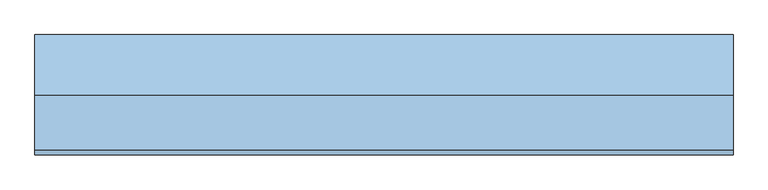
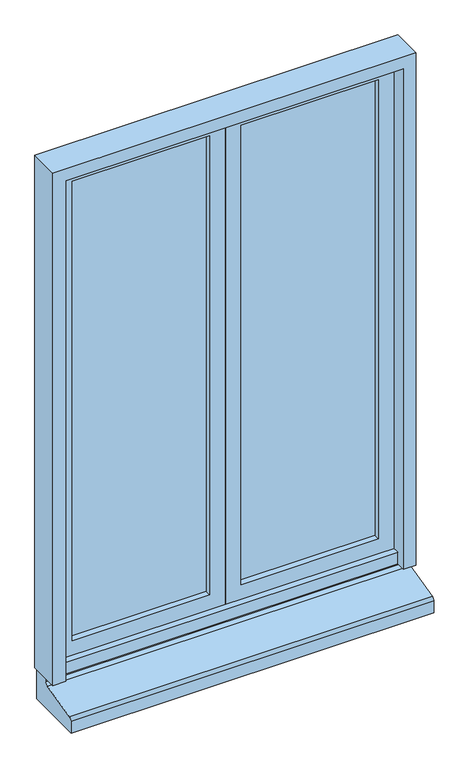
"""IFC4 building model written with IfcOpenShell, lengths in millimetres: window geometry, PF Rect. 2 vantaux : 11*170."""

from ifc_helpers import new_model, si_unit, point, frame, frame_2d, origin, place, context, project, spatial, polyline, circle_curve, trimmed, segment, composite_curve, outline, extrude, faceted_brep, source, transform, mapped, element, save


def window_221ef667(model_context):
    return source(origin(), model_context, "Body", "SolidModel", [
        faceted_brep([(580.0, 75.0, 1830.0), (580.0, 75.0, 100.0), (-580.0, 75.0, 100.0), (-580.0, 75.0, 1830.0), (540.0, 75.0, 1790.0), (-540.0, 75.0, 1790.0), (-540.0, 75.0, 140.0), (540.0, 75.0, 140.0), (540.0, -25.0, 100.0), (580.0, -25.0, 100.0), (580.0, -25.0, 1830.0), (-580.0, -25.0, 1830.0), (-580.0, -25.0, 100.0), (-540.0, -25.0, 100.0), (-540.0, -25.0, 1790.0), (540.0, -25.0, 1790.0), (540.0, 5.0, 100.0), (-540.0, 5.0, 100.0), (-540.0, 5.0, 140.0), (540.0, 5.0, 140.0)], [[[0, 1, 2, 3], [4, 5, 6, 7]], [[8, 9, 10, 11, 12, 13, 14, 15]], [[1, 9, 8, 16, 17, 13, 12, 2]], [[1, 0, 10, 9]], [[3, 11, 10, 0]], [[11, 3, 2, 12]], [[13, 17, 18, 6, 5, 14]], [[4, 15, 14, 5]], [[15, 4, 7, 19, 16, 8]], [[6, 18, 19, 7]], [[16, 19, 18, 17]]]),
        extrude(outline(composite_curve([segment(polyline([(65.0, 100.0), (65.0, 0.0), (-125.0, 0.0), (-125.0, 40.1028492)]), True, "CONTINUOUS"), segment(trimmed(circle_curve(frame_2d((-115.0, 40.1028492)), 10.0), [point((-125.0, 40.1028492))], [point((-116.0597318, 50.0465391))], False, "CARTESIAN"), True, "CONTINUOUS"), segment(polyline([(-116.0597318, 50.0465391), (6.0597318, 79.0472062)]), True, "CONTINUOUS"), segment(trimmed(circle_curve(frame_2d((5.0, 88.9908961)), 10.0), [point((6.0597318, 79.0472062))], [point((15.0, 88.9908961))], True, "CARTESIAN"), True, "CONTINUOUS"), segment(polyline([(15.0, 88.9908961), (15.0, 100.0), (65.0, 100.0)]), True, "CONTINUOUS")], self_intersect=False)), frame((-580.0, 0.0, 0.0), z_axis=(1.0, 0.0, 0.0), x_axis=(0.0, 1.0, 0.0)), (0.0, 0.0, 1.0), 1160.0),
        extrude(outline(polyline([(-50.0, 65.0), (-50.0, 45.0), (-490.0, 45.0), (-490.0, 65.0), (-50.0, 65.0)])), frame((0.0, 0.0, 190.0), z_axis=(0.0, 0.0, 1.0), x_axis=(1.0, 0.0, 0.0)), (0.0, 0.0, 1.0), 1550.0),
        extrude(outline(polyline([(490.0, 65.0), (490.0, 45.0), (50.0, 45.0), (50.0, 65.0), (490.0, 65.0)])), frame((0.0, 0.0, 190.0), z_axis=(0.0, 0.0, 1.0), x_axis=(1.0, 0.0, 0.0)), (0.0, 0.0, 1.0), 1550.0),
        extrude(outline(polyline([(1790.0, 540.0), (1790.0, 0.0), (140.0, 0.0), (140.0, 540.0), (1790.0, 540.0)]), holes=[polyline([(1740.0, 490.0), (190.0, 490.0), (190.0, 50.0), (1740.0, 50.0), (1740.0, 490.0)])]), frame((0.0, 25.0, 0.0), z_axis=(0.0, 1.0, 0.0), x_axis=(0.0, 0.0, 1.0)), (0.0, 0.0, 1.0), 50.0),
        extrude(outline(polyline([(1790.0, 0.0), (1790.0, -540.0), (140.0, -540.0), (140.0, 0.0), (1790.0, 0.0)]), holes=[polyline([(1740.0, -50.0), (190.0, -50.0), (190.0, -490.0), (1740.0, -490.0), (1740.0, -50.0)])]), frame((0.0, 25.0, 0.0), z_axis=(0.0, 1.0, 0.0), x_axis=(0.0, 0.0, 1.0)), (0.0, 0.0, 1.0), 50.0),
    ])


if __name__ == "__main__":
    model = new_model("IFC4")
    model_context = context("Model", 3, world=origin())
    ifc_project = project(units=[si_unit("LENGTHUNIT", "METRE", prefix="MILLI")], contexts=[model_context])
    site = spatial("IfcSite", under=ifc_project)
    building = spatial("IfcBuilding", under=site)
    placement = place(None, origin())
    window_shape = window_221ef667(model_context)
    element("IfcWindow", 1, ObjectType="PF Rect. 2 vantaux : 11*170", at=placement, inside=building, context=model_context, shape_type="MappedRepresentation", body=[
        mapped(window_shape, transform((0.0, 0.0, 0.0), x_axis=(1.0, 0.0, 0.0), y_axis=(0.0, 1.0, 0.0), z_axis=(0.0, 0.0, 1.0))),
    ])
    save(model, "model.ifc")
